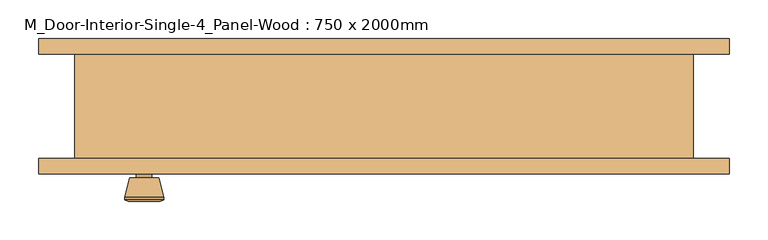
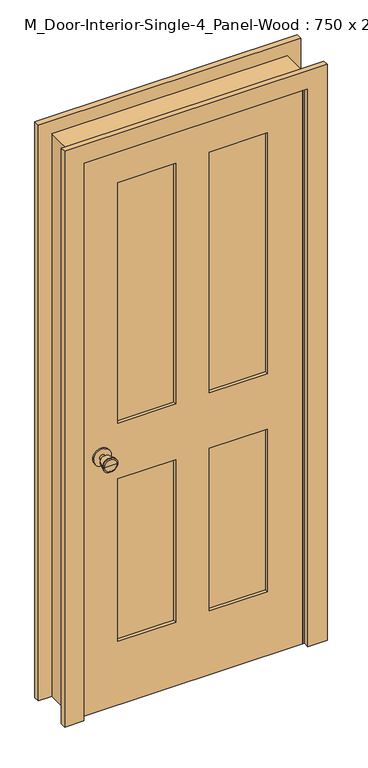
"""IFC4 building model written with IfcOpenShell, lengths in millimetres: door geometry, M_Door-Interior-Single-4_Panel-Wood : 750 x 2000mm."""

import ifcopenshell
import ifcopenshell.guid

model = None  # the IFC model being written
_history = None  # IfcOwnerHistory: only IFC2X3 demands one
_inside = {}  # id of a spatial element -> (the spatial element, [elements in it])
_under = {}  # id of a project, library or spatial element -> (it, [spatial elements below it])
_declared = {}  # id of a project -> (the project, [libraries it declares])
_typed = {}  # id of a type object -> (the type object, [elements of that type])
_made_of = {}  # id of a material, layer set ... -> (it, [elements and type objects made of it])


def new_model(schema):
    """Start an empty IFC model of exactly this schema.

    Asked for "IFC4X3", IfcOpenShell would pick the latest addendum, in which some entities
    have other attributes; the version numbers below select the first issue.
    IFC2X3 requires an IfcOwnerHistory on every rooted entity: one is made here for all.
    """
    global model, _history
    if schema == "IFC4X3":
        model = ifcopenshell.file(schema_version=(4, 3, 0, 0))
    else:
        model = ifcopenshell.file(schema=schema)
    _inside.clear()
    _under.clear()
    _declared.clear()
    _typed.clear()
    _made_of.clear()
    _history = None
    if model.schema == "IFC2X3":
        org = make("IfcOrganization", Name="unknown")
        user = make(
            "IfcPersonAndOrganization",
            ThePerson=make("IfcPerson", FamilyName="unknown"),
            TheOrganization=org,
        )
        app = make(
            "IfcApplication",
            ApplicationDeveloper=org,
            Version="unknown",
            ApplicationFullName="unknown",
            ApplicationIdentifier="unknown",
        )
        _history = make(
            "IfcOwnerHistory",
            OwningUser=user,
            OwningApplication=app,
            ChangeAction="ADDED",
            CreationDate=0,
        )
    return model


def make(cls, **values):
    """One entity of the class cls with the attributes given. An attribute that is None is left unset."""
    return model.create_entity(
        cls, **{name: value for name, value in values.items() if value is not None}
    )


def rooted(cls, **values):
    """An entity with a GlobalId (a new one), such as an element, a storey or a relation."""
    return make(cls, GlobalId=ifcopenshell.guid.new(), OwnerHistory=_history, **values)


def si_unit(unit_type, name, prefix=None):
    """IfcSIUnit, for example si_unit("LENGTHUNIT", "METRE", prefix="MILLI")."""
    return make("IfcSIUnit", UnitType=unit_type, Prefix=prefix, Name=name)


def assignment(units):
    """IfcUnitAssignment: the units of a project."""
    return None if units is None else make("IfcUnitAssignment", Units=units)


def point(xyz):
    """IfcCartesianPoint."""
    return None if xyz is None else make("IfcCartesianPoint", Coordinates=xyz)


def direction(xyz):
    """IfcDirection."""
    return None if xyz is None else make("IfcDirection", DirectionRatios=xyz)


def frame(location, z_axis=None, x_axis=None):
    """IfcAxis2Placement3D, a coordinate frame: its origin and axes. An axis left out is left unset."""
    return make(
        "IfcAxis2Placement3D",
        Location=point(location),
        Axis=direction(z_axis),
        RefDirection=direction(x_axis),
    )


def frame_2d(location, x_axis=None):
    """IfcAxis2Placement2D, a coordinate frame in the plane: its origin and x axis."""
    return make(
        "IfcAxis2Placement2D", Location=point(location), RefDirection=direction(x_axis)
    )


def origin():
    """The frame at (0, 0, 0) with its axes left unset."""
    return frame((0.0, 0.0, 0.0))


def place(relative_to, where):
    """IfcLocalPlacement: puts the frame where relative to a parent placement (None: the world)."""
    return make(
        "IfcLocalPlacement", PlacementRelTo=relative_to, RelativePlacement=where
    )


def context(
    kind, dimensions, precision=None, world=None, true_north=None, identifier=None
):
    """IfcGeometricRepresentationContext, for example the 3D "Model" context."""
    return make(
        "IfcGeometricRepresentationContext",
        ContextIdentifier=identifier,
        ContextType=kind,
        CoordinateSpaceDimension=dimensions,
        Precision=precision,
        WorldCoordinateSystem=world,
        TrueNorth=true_north,
    )


def project(units=None, contexts=None):
    """IfcProject with its units and contexts."""
    return rooted(
        "IfcProject",
        Name="project",
        RepresentationContexts=contexts,
        UnitsInContext=assignment(units),
    )


def spatial(cls, under=None, at=None, **own):
    """A site, building, storey or space (cls), placed at a placement, below another one or the project."""
    s = rooted(cls, ObjectPlacement=at, **own)
    if under is not None:
        _under.setdefault(under.id(), (under, []))[1].append(s)
    return s


def polyline(points):
    """IfcPolyline through the points."""
    return make("IfcPolyline", Points=[point(p) for p in points])


def circle_curve(where, radius):
    """IfcCircle in the frame where."""
    return make("IfcCircle", Position=where, Radius=radius)


def trimmed(basis, trim1, trim2, sense, master):
    """IfcTrimmedCurve: the piece of a basis curve between two trims."""
    return make(
        "IfcTrimmedCurve",
        BasisCurve=basis,
        Trim1=trim1,
        Trim2=trim2,
        SenseAgreement=sense,
        MasterRepresentation=master,
    )


def segment(curve, same_sense, transition):
    """IfcCompositeCurveSegment."""
    return make(
        "IfcCompositeCurveSegment",
        Transition=transition,
        SameSense=same_sense,
        ParentCurve=curve,
    )


def composite_curve(segments, self_intersect=None):
    """IfcCompositeCurve: segments joined end to end."""
    return make("IfcCompositeCurve", Segments=segments, SelfIntersect=self_intersect)


def outline(outer, holes=None, kind="AREA"):
    """IfcArbitraryClosedProfileDef: a profile drawn as a closed curve; with holes, ...WithVoids."""
    if holes is None:
        return make("IfcArbitraryClosedProfileDef", ProfileType=kind, OuterCurve=outer)
    return make(
        "IfcArbitraryProfileDefWithVoids",
        ProfileType=kind,
        OuterCurve=outer,
        InnerCurves=holes,
    )


def extrude(swept, where, along, depth):
    """IfcExtrudedAreaSolid: the profile swept, set in the frame where, extruded along a direction by depth."""
    return make(
        "IfcExtrudedAreaSolid",
        SweptArea=swept,
        Position=where,
        ExtrudedDirection=direction(along),
        Depth=depth,
    )


def faces_of(points, faces, orient=None, outer=None):
    """IfcFace entities. A face is a list of loops; a loop is a list of indices into points, from 0.

    orient and outer hold one flag for each loop. By default every Orientation is true, the
    first loop of a face is its IfcFaceOuterBound and the others are IfcFaceBound.
    """
    made = []
    for i, loops in enumerate(faces):
        bounds = []
        for j, loop in enumerate(loops):
            is_outer = j == 0 if outer is None else outer[i][j]
            bounds.append(
                make(
                    "IfcFaceOuterBound" if is_outer else "IfcFaceBound",
                    Bound=make("IfcPolyLoop", Polygon=[points[k] for k in loop]),
                    Orientation=True if orient is None else orient[i][j],
                )
            )
        made.append(make("IfcFace", Bounds=bounds))
    return made


def faceted_brep(points, faces, orient=None, outer=None, voids=None):
    """IfcFacetedBrep: a solid bounded by flat faces; with voids (closed shells), ...WithVoids."""
    shared = [point(p) for p in points]
    hull = make("IfcClosedShell", CfsFaces=faces_of(shared, faces, orient, outer))
    if voids is None:
        return make("IfcFacetedBrep", Outer=hull)
    return make(
        "IfcFacetedBrepWithVoids",
        Outer=hull,
        Voids=[
            make(cls, CfsFaces=faces_of(shared, fs, o, b)) for cls, fs, o, b in voids
        ],
    )


def shape(context_of_items, identifier, shape_type, items):
    """IfcShapeRepresentation: the items that make up one representation, for example the "Body"."""
    return make(
        "IfcShapeRepresentation",
        ContextOfItems=context_of_items,
        RepresentationIdentifier=identifier,
        RepresentationType=shape_type,
        Items=items,
    )


def source(mapping_origin, context_of_items, identifier, shape_type, items):
    """IfcRepresentationMap: a shape defined once, which mapped items show again and again."""
    return make(
        "IfcRepresentationMap",
        MappingOrigin=mapping_origin,
        MappedRepresentation=shape(context_of_items, identifier, shape_type, items),
    )


def transform(
    local_origin,
    x_axis=None,
    y_axis=None,
    z_axis=None,
    scale=None,
    scale2=None,
    scale3=None,
    uniform=True,
):
    """IfcCartesianTransformationOperator3D, or its non-uniform kind. x_axis, y_axis, z_axis: its Axis1, 2, 3."""
    if uniform:
        return make(
            "IfcCartesianTransformationOperator3D",
            Axis1=direction(x_axis),
            Axis2=direction(y_axis),
            LocalOrigin=point(local_origin),
            Scale=scale,
            Axis3=direction(z_axis),
        )
    return make(
        "IfcCartesianTransformationOperator3DnonUniform",
        Axis1=direction(x_axis),
        Axis2=direction(y_axis),
        LocalOrigin=point(local_origin),
        Scale=scale,
        Axis3=direction(z_axis),
        Scale2=scale2,
        Scale3=scale3,
    )


def mapped(mapping_source, mapping_target):
    """IfcMappedItem: shows the shape of a source again, moved by a transform."""
    return make(
        "IfcMappedItem", MappingSource=mapping_source, MappingTarget=mapping_target
    )


def made_of(thing, what):
    """Note that an element or type object is made of a material, layer set ...; save() writes the relation."""
    if what is not None:
        _made_of.setdefault(what.id(), (what, []))[1].append(thing)
    return thing


def element(
    cls,
    number,
    at=None,
    inside=None,
    cuts=None,
    type_object=None,
    material=None,
    context=None,
    identifier="Body",
    shape_type=None,
    held_by="IfcProductDefinitionShape",
    body=None,
    shapes=None,
    **own,
):
    """One element of the class cls, such as IfcWall. Its Tag is "e" and its number.

    at: its placement. inside: the storey or other place that contains it. cuts: it is an
    opening in that element (IfcRelVoidsElement). A single representation is given by context,
    identifier, shape_type and body (its items); several are given by shapes. held_by: the class
    of the entity that holds the representations. save() writes the other relations.
    """
    e = rooted(cls, Tag="e%d" % number, ObjectPlacement=at, **own)
    if body is not None:
        shapes = [shape(context, identifier, shape_type, body)]
    if shapes is not None:
        e.Representation = make(held_by, Representations=shapes)
    if inside is not None:
        _inside.setdefault(inside.id(), (inside, []))[1].append(e)
    if cuts is not None:
        rooted(
            "IfcRelVoidsElement", RelatingBuildingElement=cuts, RelatedOpeningElement=e
        )
    if type_object is not None:
        _typed.setdefault(type_object.id(), (type_object, []))[1].append(e)
    return made_of(e, material)


def aggregate(whole, parts):
    """IfcRelAggregates: a whole, such as a stair, and the parts it consists of."""
    return rooted("IfcRelAggregates", RelatingObject=whole, RelatedObjects=parts)


def save(model, path):
    """Write the relations noted so far, then the file.

    IfcRelAggregates (storeys below a building ...), IfcRelContainedInSpatialStructure (elements
    in a storey), IfcRelDefinesByType, IfcRelAssociatesMaterial and IfcRelDeclares: one each for
    every whole, place, type object, material and project.
    """
    for whole, parts in _under.values():
        aggregate(whole, parts)
    for where, things in _inside.values():
        rooted(
            "IfcRelContainedInSpatialStructure",
            RelatedElements=things,
            RelatingStructure=where,
        )
    for kind, things in _typed.values():
        rooted("IfcRelDefinesByType", RelatedObjects=things, RelatingType=kind)
    for what, things in _made_of.values():
        rooted("IfcRelAssociatesMaterial", RelatedObjects=things, RelatingMaterial=what)
    for by, libraries in _declared.values():
        rooted("IfcRelDeclares", RelatingContext=by, RelatedDefinitions=libraries)
    model.write(path)


def plane_surface(at):
    """IfcPlane: the flat surface through the origin of the frame at, square to its z axis."""
    return make("IfcPlane", Position=at)


def cylinder_surface(at, radius):
    """IfcCylindricalSurface: all points at the distance radius from the z axis of the frame at."""
    return make("IfcCylindricalSurface", Position=at, Radius=radius)


def revolved_surface(curve, axis_point, axis_direction):
    """IfcSurfaceOfRevolution: the curve turned about the line through axis_point along axis_direction."""
    return make(
        "IfcSurfaceOfRevolution",
        SweptCurve=make("IfcArbitraryOpenProfileDef", ProfileType="CURVE", Curve=curve),
        AxisPosition=make("IfcAxis1Placement", Location=point(axis_point), Axis=direction(axis_direction)),
    )


def advanced_brep(points, edges, surfaces, faces):
    """IfcAdvancedBrep: a solid bounded by faces that lie on surfaces and meet in shared edges.

    An edge is (start, end): straight between two places in points (the first is 0);
    or (start, end, curve); or (start, end, curve, False) where it runs against its curve.
    A face is (place in surfaces, loops), or (place, loops, False) where it looks against
    its surface's normal. A loop lists edges by number (the first is 1), with a minus sign
    where the edge is run from its end to its start. The first loop is the outer one.
    """
    corners = [point(p) for p in points]
    vertices = [make("IfcVertexPoint", VertexGeometry=c) for c in corners]
    made = []
    for start, end, *more in edges:
        made.append(
            make(
                "IfcEdgeCurve",
                EdgeStart=vertices[start],
                EdgeEnd=vertices[end],
                EdgeGeometry=more[0] if more else make("IfcPolyline", Points=[corners[start], corners[end]]),
                SameSense=more[1] if len(more) > 1 else True,
            )
        )
    hull = []
    for where, loops, *sense in faces:
        bounds = []
        for j, loop in enumerate(loops):
            ring = [make("IfcOrientedEdge", EdgeElement=made[abs(k) - 1], Orientation=k > 0) for k in loop]
            bounds.append(
                make(
                    "IfcFaceOuterBound" if j == 0 else "IfcFaceBound",
                    Bound=make("IfcEdgeLoop", EdgeList=ring),
                    Orientation=True,
                )
            )
        hull.append(make("IfcAdvancedFace", Bounds=bounds, FaceSurface=surfaces[where], SameSense=sense[0] if sense else True))
    return make("IfcAdvancedBrep", Outer=make("IfcClosedShell", CfsFaces=hull))


def m_door_interior_single_4_panel_wood_750_x_2000mm_f921d021(model_context):
    return source(origin(), model_context, "Body", "SolidModel", [
        advanced_brep(
        [(-310.0, -23.575, 914.4), (-320.0, -23.575, 914.4), (-300.0, -23.575, 914.4), (-289.5241324, 25.425, 914.4), (-330.4758676, 25.425, 914.4), (-310.0, 25.425, 914.4), (-285.0, 23.5971319, 914.4), (-335.0, 23.5971319, 914.4), (-285.0, 20.1334537, 914.4), (-335.0, 20.1334537, 914.4), (-291.363764, -4.575, 914.4), (-328.636236, -4.575, 914.4), (-300.0, -4.575, 914.4), (-320.0, -4.575, 914.4)],
        [
            (0, 1),
            (1, 2, circle_curve(frame((-310.0, -23.575, 914.4), z_axis=(0.0, -1.0, 0.0), x_axis=(-1.0, 0.0, 0.0)), 10.0)),
            (2, 0),
            (2, 1, circle_curve(frame((-310.0, -23.575, 914.4), z_axis=(0.0, -1.0, 0.0), x_axis=(-1.0, 0.0, 0.0)), 10.0)),
            (3, 4, circle_curve(frame((-310.0, 25.425, 914.4), z_axis=(0.0, 1.0, 0.0), x_axis=(-1.0, 0.0, 0.0)), 20.4758676)),
            (4, 5),
            (5, 3),
            (4, 3, circle_curve(frame((-310.0, 25.425, 914.4), z_axis=(0.0, 1.0, 0.0), x_axis=(-1.0, 0.0, 0.0)), 20.4758676)),
            (6, 7, circle_curve(frame((-310.0, 23.5971319, 914.4), z_axis=(0.0, 1.0, 0.0), x_axis=(-1.0, 0.0, 0.0)), 25.0)),
            (7, 4),
            (3, 6),
            (7, 6, circle_curve(frame((-310.0, 23.5971319, 914.4), z_axis=(0.0, 1.0, 0.0), x_axis=(-1.0, 0.0, 0.0)), 25.0)),
            (8, 9, circle_curve(frame((-310.0, 20.1334537, 914.4), z_axis=(0.0, 1.0, 0.0), x_axis=(-1.0, 0.0, 0.0)), 25.0)),
            (9, 7),
            (6, 8),
            (9, 8, circle_curve(frame((-310.0, 20.1334537, 914.4), z_axis=(0.0, 1.0, 0.0), x_axis=(-1.0, 0.0, 0.0)), 25.0)),
            (10, 11, circle_curve(frame((-310.0, -4.575, 914.4), z_axis=(0.0, 1.0, 0.0), x_axis=(-1.0, 0.0, 0.0)), 18.636236)),
            (11, 9),
            (8, 10),
            (11, 10, circle_curve(frame((-310.0, -4.575, 914.4), z_axis=(0.0, 1.0, 0.0), x_axis=(-1.0, 0.0, 0.0)), 18.636236)),
            (12, 13, circle_curve(frame((-310.0, -4.575, 914.4), z_axis=(0.0, 1.0, 0.0), x_axis=(-1.0, 0.0, 0.0)), 10.0)),
            (13, 11),
            (10, 12),
            (13, 12, circle_curve(frame((-310.0, -4.575, 914.4), z_axis=(0.0, 1.0, 0.0), x_axis=(-1.0, 0.0, 0.0)), 10.0)),
            (1, 13),
            (12, 2),
        ],
        [
            plane_surface(frame((-310.0, -23.575, 914.4), z_axis=(0.0, -1.0, 0.0), x_axis=(-1.0, 0.0, 0.0))),
            plane_surface(frame((-310.0, 25.425, 914.4), z_axis=(0.0, 1.0, 0.0), x_axis=(-1.0, 0.0, 0.0))),
            revolved_surface(polyline([(-330.4758676, 25.425, 914.4), (-335.0, 23.5971319, 914.4)]), (-310.0, -23.575, 914.4), (0.0, -1.0, 0.0)),
            cylinder_surface(frame((-310.0, -23.575, 914.4), z_axis=(0.0, -1.0, 0.0), x_axis=(-1.0, 0.0, 0.0)), 25.0),
            revolved_surface(polyline([(-335.0, 20.1334537, 914.4), (-328.636236, -4.575, 914.4)]), (-310.0, -23.575, 914.4), (0.0, -1.0, 0.0)),
            plane_surface(frame((-310.0, -4.575, 914.4), z_axis=(0.0, -1.0, 0.0), x_axis=(-1.0, 0.0, 0.0))),
            cylinder_surface(frame((-310.0, -23.575, 914.4), z_axis=(0.0, -1.0, 0.0), x_axis=(-1.0, 0.0, 0.0)), 10.0),
        ],
        [
            (0, [[1, 2, 3]]),
            (0, [[-3, 4, -1]]),
            (1, [[5, 6, 7]]),
            (1, [[8, -7, -6]]),
            (2, [[9, 10, -5, 11]]),
            (2, [[12, -11, -8, -10]]),
            (3, [[13, 14, -9, 15]]),
            (3, [[16, -15, -12, -14]]),
            (4, [[17, 18, -13, 19]]),
            (4, [[20, -19, -16, -18]]),
            (5, [[21, 22, -17, 23]]),
            (5, [[24, -23, -20, -22]]),
            (6, [[-2, 25, -21, 26]]),
            (6, [[-4, -26, -24, -25]]),
        ],
    ),
        extrude(outline(composite_curve([segment(trimmed(circle_curve(frame_2d((914.4, -310.0)), 30.0), [point((914.4, -340.0))], [point((914.4, -280.0))], False, "CARTESIAN"), True, "CONTINUOUS"), segment(trimmed(circle_curve(frame_2d((914.4, -310.0)), 30.0), [point((914.4, -280.0))], [point((914.4, -340.0))], False, "CARTESIAN"), True, "CONTINUOUS")], self_intersect=False)), frame((0.0, -29.575, 0.0), z_axis=(0.0, 1.0, 0.0), x_axis=(0.0, 0.0, 1.0)), (0.0, 0.0, 1.0), 6.0),
        advanced_brep(
        [(-310.0, -70.575, 914.4), (-300.0, -70.575, 914.4), (-320.0, -70.575, 914.4), (-289.5241324, -119.575, 914.4), (-310.0, -119.575, 914.4), (-330.4758676, -119.575, 914.4), (-285.0, -117.7471319, 914.4), (-335.0, -117.7471319, 914.4), (-285.0, -114.2834537, 914.4), (-335.0, -114.2834537, 914.4), (-291.363764, -89.575, 914.4), (-328.636236, -89.575, 914.4), (-300.0, -89.575, 914.4), (-320.0, -89.575, 914.4)],
        [
            (0, 1),
            (1, 2, circle_curve(frame((-310.0, -70.575, 914.4), z_axis=(0.0, 1.0, 0.0), x_axis=(-1.0, 0.0, 0.0)), 10.0)),
            (2, 0),
            (2, 1, circle_curve(frame((-310.0, -70.575, 914.4), z_axis=(0.0, 1.0, 0.0), x_axis=(-1.0, 0.0, 0.0)), 10.0)),
            (3, 4),
            (4, 5),
            (5, 3, circle_curve(frame((-310.0, -119.575, 914.4), z_axis=(0.0, -1.0, 0.0), x_axis=(-1.0, 0.0, 0.0)), 20.4758676)),
            (3, 5, circle_curve(frame((-310.0, -119.575, 914.4), z_axis=(0.0, -1.0, 0.0), x_axis=(-1.0, 0.0, 0.0)), 20.4758676)),
            (6, 3),
            (5, 7),
            (7, 6, circle_curve(frame((-310.0, -117.7471319, 914.4), z_axis=(0.0, -1.0, 0.0), x_axis=(-1.0, 0.0, 0.0)), 25.0)),
            (6, 7, circle_curve(frame((-310.0, -117.7471319, 914.4), z_axis=(0.0, -1.0, 0.0), x_axis=(-1.0, 0.0, 0.0)), 25.0)),
            (8, 6),
            (7, 9),
            (9, 8, circle_curve(frame((-310.0, -114.2834537, 914.4), z_axis=(0.0, -1.0, 0.0), x_axis=(-1.0, 0.0, 0.0)), 25.0)),
            (8, 9, circle_curve(frame((-310.0, -114.2834537, 914.4), z_axis=(0.0, -1.0, 0.0), x_axis=(-1.0, 0.0, 0.0)), 25.0)),
            (10, 8),
            (9, 11),
            (11, 10, circle_curve(frame((-310.0, -89.575, 914.4), z_axis=(0.0, -1.0, 0.0), x_axis=(-1.0, 0.0, 0.0)), 18.636236)),
            (10, 11, circle_curve(frame((-310.0, -89.575, 914.4), z_axis=(0.0, -1.0, 0.0), x_axis=(-1.0, 0.0, 0.0)), 18.636236)),
            (12, 10),
            (11, 13),
            (13, 12, circle_curve(frame((-310.0, -89.575, 914.4), z_axis=(0.0, -1.0, 0.0), x_axis=(-1.0, 0.0, 0.0)), 10.0)),
            (12, 13, circle_curve(frame((-310.0, -89.575, 914.4), z_axis=(0.0, -1.0, 0.0), x_axis=(-1.0, 0.0, 0.0)), 10.0)),
            (1, 12),
            (13, 2),
        ],
        [
            plane_surface(frame((-310.0, -70.575, 914.4), z_axis=(0.0, 1.0, 0.0), x_axis=(-1.0, 0.0, 0.0))),
            plane_surface(frame((-310.0, -119.575, 914.4), z_axis=(0.0, -1.0, 0.0), x_axis=(-1.0, 0.0, 0.0))),
            revolved_surface(polyline([(-330.4758676, -119.575, 914.4), (-335.0, -117.7471319, 914.4)]), (-310.0, -70.575, 914.4), (0.0, 1.0, 0.0)),
            cylinder_surface(frame((-310.0, -70.575, 914.4), z_axis=(0.0, 1.0, 0.0), x_axis=(-1.0, 0.0, 0.0)), 25.0),
            revolved_surface(polyline([(-335.0, -114.2834537, 914.4), (-328.636236, -89.575, 914.4)]), (-310.0, -70.575, 914.4), (0.0, 1.0, 0.0)),
            plane_surface(frame((-310.0, -89.575, 914.4), z_axis=(0.0, 1.0, 0.0), x_axis=(-1.0, 0.0, 0.0))),
            cylinder_surface(frame((-310.0, -70.575, 914.4), z_axis=(0.0, 1.0, 0.0), x_axis=(-1.0, 0.0, 0.0)), 10.0),
        ],
        [
            (0, [[1, 2, 3]]),
            (0, [[-3, 4, -1]]),
            (1, [[5, 6, 7]]),
            (1, [[-6, -5, 8]]),
            (2, [[9, -7, 10, 11]]),
            (2, [[-10, -8, -9, 12]]),
            (3, [[13, -11, 14, 15]]),
            (3, [[-14, -12, -13, 16]]),
            (4, [[17, -15, 18, 19]]),
            (4, [[-18, -16, -17, 20]]),
            (5, [[21, -19, 22, 23]]),
            (5, [[-22, -20, -21, 24]]),
            (6, [[25, -23, 26, -2]]),
            (6, [[-26, -24, -25, -4]]),
        ],
    ),
        extrude(outline(composite_curve([segment(trimmed(circle_curve(frame_2d((914.4, -310.0)), 30.0), [point((914.4, -340.0))], [point((914.4, -280.0))], False, "CARTESIAN"), True, "CONTINUOUS"), segment(trimmed(circle_curve(frame_2d((914.4, -310.0)), 30.0), [point((914.4, -280.0))], [point((914.4, -340.0))], False, "CARTESIAN"), True, "CONTINUOUS")], self_intersect=False)), frame((0.0, -70.575, 0.0), z_axis=(0.0, 1.0, 0.0), x_axis=(0.0, 0.0, 1.0)), (0.0, 0.0, 1.0), 6.0),
        extrude(outline(polyline([(255.0, -41.2416667), (255.0, -52.9083333), (57.5, -52.9083333), (57.5, -41.2416667), (255.0, -41.2416667)])), frame((0.0, 0.0, 1014.4), z_axis=(0.0, 0.0, 1.0), x_axis=(1.0, 0.0, 0.0)), (0.0, 0.0, 1.0), 865.6),
        extrude(outline(polyline([(-57.5, -41.2416667), (-57.5, -52.9083333), (-255.0, -52.9083333), (-255.0, -41.2416667), (-57.5, -41.2416667)])), frame((0.0, 0.0, 1014.4), z_axis=(0.0, 0.0, 1.0), x_axis=(1.0, 0.0, 0.0)), (0.0, 0.0, 1.0), 865.6),
        extrude(outline(polyline([(255.0, -41.2416667), (255.0, -52.9083333), (57.5, -52.9083333), (57.5, -41.2416667), (255.0, -41.2416667)])), frame((0.0, 0.0, 230.0), z_axis=(0.0, 0.0, 1.0), x_axis=(1.0, 0.0, 0.0)), (0.0, 0.0, 1.0), 584.4),
        extrude(outline(polyline([(-57.5, -41.2416667), (-57.5, -52.9083333), (-255.0, -52.9083333), (-255.0, -41.2416667), (-57.5, -41.2416667)])), frame((0.0, 0.0, 230.0), z_axis=(0.0, 0.0, 1.0), x_axis=(1.0, 0.0, 0.0)), (0.0, 0.0, 1.0), 584.4),
        extrude(outline(polyline([(2000.0, -375.0), (0.0, -375.0), (0.0, 375.0), (2000.0, 375.0), (2000.0, -375.0)]), holes=[polyline([(1880.0, 57.5), (1880.0, 255.0), (1014.4, 255.0), (1014.4, 57.5), (1880.0, 57.5)]), polyline([(1014.4, -57.5), (1014.4, -255.0), (1880.0, -255.0), (1880.0, -57.5), (1014.4, -57.5)]), polyline([(814.4, 57.5), (814.4, 255.0), (230.0, 255.0), (230.0, 57.5), (814.4, 57.5)]), polyline([(230.0, -57.5), (230.0, -255.0), (814.4, -255.0), (814.4, -57.5), (230.0, -57.5)])]), frame((0.0, -64.575, 0.0), z_axis=(0.0, 1.0, 0.0), x_axis=(0.0, 0.0, 1.0)), (0.0, 0.0, 1.0), 35.0),
        faceted_brep([(400.0, -64.575, 0.0), (375.0, -64.575, 0.0), (375.0, -29.575, 0.0), (362.3, -29.575, 0.0), (362.3, 5.35, 0.0), (375.0, 5.35, 0.0), (375.0, 70.925, 0.0), (400.0, 70.925, 0.0), (400.0, 70.925, 2025.0), (400.0, -64.575, 2025.0), (375.0, 70.925, 2000.0), (-375.0, 70.925, 2000.0), (-375.0, 70.925, 0.0), (-400.0, 70.925, 0.0), (-400.0, 70.925, 2025.0), (375.0, 5.35, 2000.0), (362.3, 5.35, 1987.3), (-362.3, 5.35, 1987.3), (-362.3, 5.35, 0.0), (-375.0, 5.35, 0.0), (-375.0, 5.35, 2000.0), (362.3, -29.575, 1987.3), (375.0, -29.575, 2000.0), (-375.0, -29.575, 2000.0), (-375.0, -29.575, 0.0), (-362.3, -29.575, 0.0), (-362.3, -29.575, 1987.3), (375.0, -64.575, 2000.0), (-400.0, -64.575, 2025.0), (-400.0, -64.575, 0.0), (-375.0, -64.575, 0.0), (-375.0, -64.575, 2000.0)], [[[0, 1, 2, 3, 4, 5, 6, 7]], [[7, 8, 9, 0]], [[6, 10, 11, 12, 13, 14, 8, 7]], [[5, 15, 10, 6]], [[4, 16, 17, 18, 19, 20, 15, 5]], [[3, 21, 16, 4]], [[2, 22, 23, 24, 25, 26, 21, 3]], [[1, 27, 22, 2]], [[0, 9, 28, 29, 30, 31, 27, 1]], [[8, 14, 28, 9]], [[15, 20, 11, 10]], [[21, 26, 17, 16]], [[27, 31, 23, 22]], [[29, 13, 12, 19, 18, 25, 24, 30]], [[14, 13, 29, 28]], [[20, 19, 12, 11]], [[26, 25, 18, 17]], [[31, 30, 24, 23]]]),
        extrude(outline(polyline([(0.0, 446.35), (2071.35, 446.35), (2071.35, -446.35), (0.0, -446.35), (0.0, -381.35), (2006.35, -381.35), (2006.35, 381.35), (0.0, 381.35), (0.0, 446.35)])), frame((0.0, 70.925, 0.0), z_axis=(0.0, 1.0, 0.0), x_axis=(0.0, 0.0, 1.0)), (0.0, 0.0, 1.0), 20.0),
        extrude(outline(polyline([(0.0, 446.35), (2071.35, 446.35), (2071.35, -446.35), (0.0, -446.35), (0.0, -381.35), (2006.35, -381.35), (2006.35, 381.35), (0.0, 381.35), (0.0, 446.35)])), frame((0.0, -84.575, 0.0), z_axis=(0.0, 1.0, 0.0), x_axis=(0.0, 0.0, 1.0)), (0.0, 0.0, 1.0), 20.0),
    ])


if __name__ == "__main__":
    model = new_model("IFC4")
    model_context = context("Model", 3, world=origin())
    ifc_project = project(units=[si_unit("LENGTHUNIT", "METRE", prefix="MILLI")], contexts=[model_context])
    site = spatial("IfcSite", under=ifc_project)
    building = spatial("IfcBuilding", under=site)
    placement = place(None, origin())
    m_door_interior_single_4_panel_wood_750_x_2000mm_shape = m_door_interior_single_4_panel_wood_750_x_2000mm_f921d021(model_context)
    element("IfcDoor", 1, ObjectType="M_Door-Interior-Single-4_Panel-Wood : 750 x 2000mm", at=placement, inside=building, context=model_context, shape_type="MappedRepresentation", body=[
        mapped(m_door_interior_single_4_panel_wood_750_x_2000mm_shape, transform((0.0, 0.0, 0.0), x_axis=(1.0, 0.0, 0.0), y_axis=(0.0, 1.0, 0.0), z_axis=(0.0, 0.0, 1.0))),
    ])
    save(model, "model.ifc")
